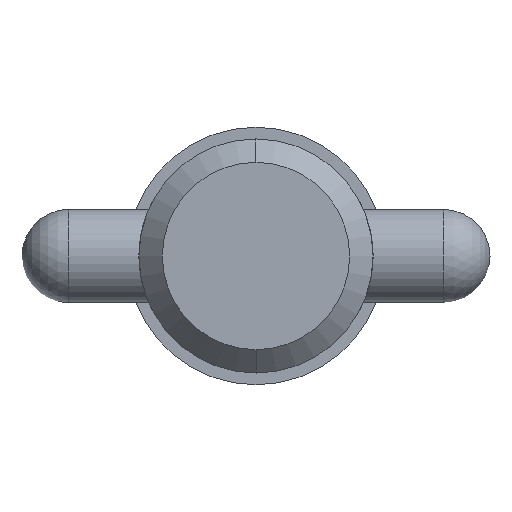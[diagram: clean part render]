
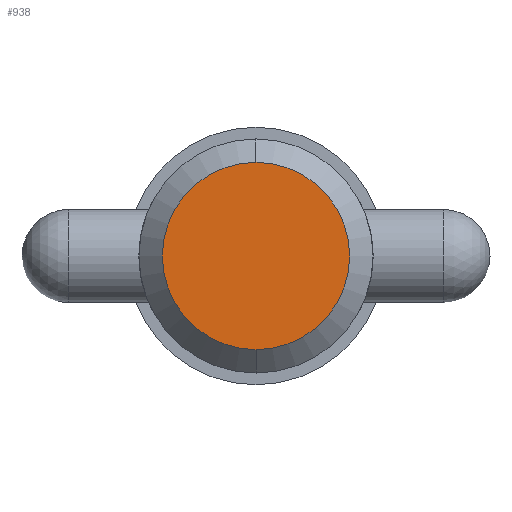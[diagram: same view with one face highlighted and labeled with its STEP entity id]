
A CAD part, left-side view. The second image highlights one B-rep face of the part: STEP entity #938.
In plain terms, the highlighted planar face has unit normal (-1, 0, 0).
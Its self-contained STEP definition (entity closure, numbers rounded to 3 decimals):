
#15 = DIRECTION ( 'NONE',  ( 0., 0., -1. ) ) ;
#163 = DIRECTION ( 'NONE',  ( 0., 0., -1. ) ) ;
#213 = AXIS2_PLACEMENT_3D ( 'NONE', #246, #237, #163 ) ;
#223 = DIRECTION ( 'NONE',  ( -1., 0., 0. ) ) ;
#237 = DIRECTION ( 'NONE',  ( 1., 0., 0. ) ) ;
#246 = CARTESIAN_POINT ( 'NONE',  ( 0., 0., 0. ) ) ;
#311 = CIRCLE ( 'NONE', #1004, 6.352 ) ;
#333 = ORIENTED_EDGE ( 'NONE', *, *, #858, .F. ) ;
#345 = AXIS2_PLACEMENT_3D ( 'NONE', #797, #223, #791 ) ;
#390 = PLANE ( 'NONE',  #345 ) ;
#541 = CIRCLE ( 'NONE', #213, 6.352 ) ;
#556 = FACE_OUTER_BOUND ( 'NONE', #868, .T. ) ;
#617 = VERTEX_POINT ( 'NONE', #649 ) ;
#649 = CARTESIAN_POINT ( 'NONE',  ( 0., 0., 6.352 ) ) ;
#688 = ORIENTED_EDGE ( 'NONE', *, *, #873, .F. ) ;
#691 = VERTEX_POINT ( 'NONE', #807 ) ;
#791 = DIRECTION ( 'NONE',  ( 0., 0., 1. ) ) ;
#797 = CARTESIAN_POINT ( 'NONE',  ( 0., 0., 0. ) ) ;
#807 = CARTESIAN_POINT ( 'NONE',  ( 0., 0., -6.352 ) ) ;
#858 = EDGE_CURVE ( 'NONE', #617, #691, #541, .T. ) ;
#868 = EDGE_LOOP ( 'NONE', ( #688, #333 ) ) ;
#873 = EDGE_CURVE ( 'NONE', #691, #617, #311, .T. ) ;
#889 = CARTESIAN_POINT ( 'NONE',  ( 0., 0., 0. ) ) ;
#938 = ADVANCED_FACE ( 'NONE', ( #556 ), #390, .T. ) ;
#985 = DIRECTION ( 'NONE',  ( 1., 0., 0. ) ) ;
#1004 = AXIS2_PLACEMENT_3D ( 'NONE', #889, #985, #15 ) ;
